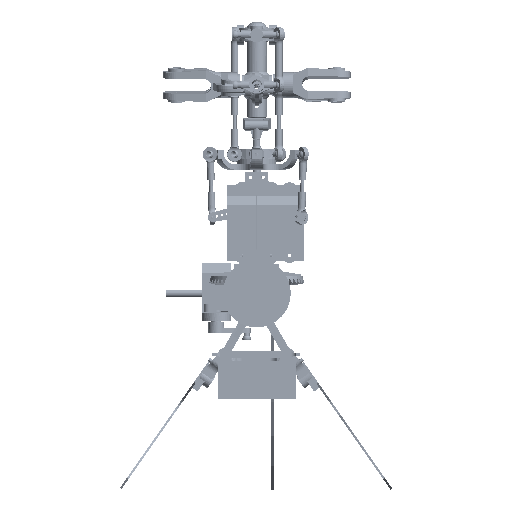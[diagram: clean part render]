
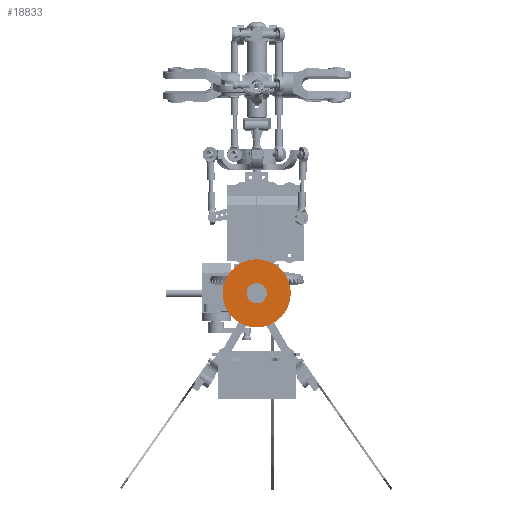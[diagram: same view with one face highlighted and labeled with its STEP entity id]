
A CAD part, front view. The second image highlights one B-rep face of the part: STEP entity #18833.
In plain terms, the highlighted planar face has unit normal (0, -1, 0).
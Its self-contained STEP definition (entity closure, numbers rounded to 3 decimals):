
#18684=CARTESIAN_POINT('Vertex',(6.472,4.5,-11.847)) ;
#18687=CARTESIAN_POINT('Axis2P3D Location',(0.,4.5,0.)) ;
#18691=CARTESIAN_POINT('Vertex',(-6.472,4.5,11.847)) ;
#18713=CARTESIAN_POINT('Axis2P3D Location',(0.,4.5,0.)) ;
#18734=CARTESIAN_POINT('Vertex',(1.918,4.5,-3.51)) ;
#18750=CARTESIAN_POINT('Vertex',(-1.918,4.5,3.51)) ;
#18753=CARTESIAN_POINT('Axis2P3D Location',(0.,4.5,0.)) ;
#18770=CARTESIAN_POINT('Axis2P3D Location',(0.,4.5,0.)) ;
#18820=CARTESIAN_POINT('Axis2P3D Location',(0.,4.5,4.)) ;
#18688=DIRECTION('Axis2P3D Direction',(0.,-1.,0.)) ;
#18714=DIRECTION('Axis2P3D Direction',(0.,-1.,0.)) ;
#18754=DIRECTION('Axis2P3D Direction',(0.,-1.,0.)) ;
#18771=DIRECTION('Axis2P3D Direction',(0.,-1.,0.)) ;
#18821=DIRECTION('Axis2P3D Direction',(0.,-1.,0.)) ;
#18822=DIRECTION('Axis2P3D XDirection',(1.,0.,0.)) ;
#18689=AXIS2_PLACEMENT_3D('Circle Axis2P3D',#18687,#18688,$) ;
#18715=AXIS2_PLACEMENT_3D('Circle Axis2P3D',#18713,#18714,$) ;
#18755=AXIS2_PLACEMENT_3D('Circle Axis2P3D',#18753,#18754,$) ;
#18772=AXIS2_PLACEMENT_3D('Circle Axis2P3D',#18770,#18771,$) ;
#18823=AXIS2_PLACEMENT_3D('Plane Axis2P3D',#18820,#18821,#18822) ;
#18826=ORIENTED_EDGE('',*,*,#18717,.T.) ;
#18827=ORIENTED_EDGE('',*,*,#18693,.T.) ;
#18830=ORIENTED_EDGE('',*,*,#18757,.F.) ;
#18831=ORIENTED_EDGE('',*,*,#18774,.F.) ;
#18832=FACE_BOUND('',#18829,.T.) ;
#18833=ADVANCED_FACE('',(#18828,#18832),#18824,.T.) ;
#18690=CIRCLE('generated circle',#18689,13.5) ;
#18716=CIRCLE('generated circle',#18715,13.5) ;
#18756=CIRCLE('generated circle',#18755,4.) ;
#18773=CIRCLE('generated circle',#18772,4.) ;
#18693=EDGE_CURVE('',#18692,#18685,#18690,.T.) ;
#18717=EDGE_CURVE('',#18685,#18692,#18716,.T.) ;
#18757=EDGE_CURVE('',#18751,#18735,#18756,.T.) ;
#18774=EDGE_CURVE('',#18735,#18751,#18773,.T.) ;
#18825=EDGE_LOOP('',(#18826,#18827)) ;
#18829=EDGE_LOOP('',(#18830,#18831)) ;
#18828=FACE_OUTER_BOUND('',#18825,.T.) ;
#18824=PLANE('Plane',#18823) ;
#18685=VERTEX_POINT('',#18684) ;
#18692=VERTEX_POINT('',#18691) ;
#18735=VERTEX_POINT('',#18734) ;
#18751=VERTEX_POINT('',#18750) ;
